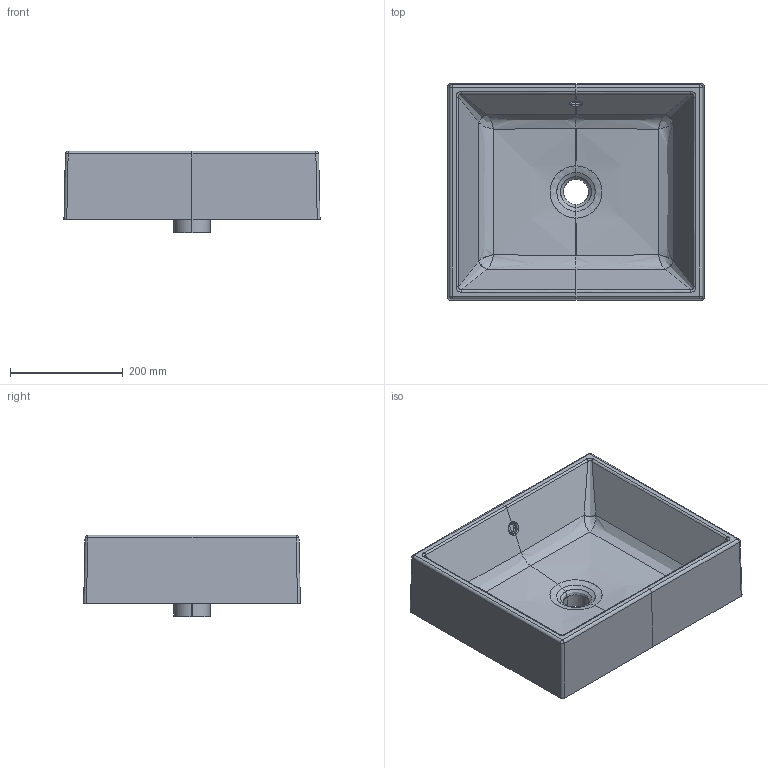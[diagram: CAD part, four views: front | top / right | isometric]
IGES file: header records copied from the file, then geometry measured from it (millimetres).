
Start section: START RECORD GO HERE.
Global section: file name: 6104_Lavabo plus incasso 45x38.igs; native system: DASSAULT SYSTEMES CATIA V5 R19 - www.3ds.com; preprocessor: CATIA Version 5 Release 19 SP 5 ; author: gioge; organization: LAPTOP-G94B6G74; date: 20200630.123920; units: millimetre
Bounding box: 455.11 x 385.11 x 145 mm (x, y, z)
Surface area: 671088.8 mm2 (no closed solid volume)
Topology: 0 solids, 0 shells, 236 faces, 1125 edges, 1121 vertices
Faces by surface type: bspline 188, revolution 34, plane 14
